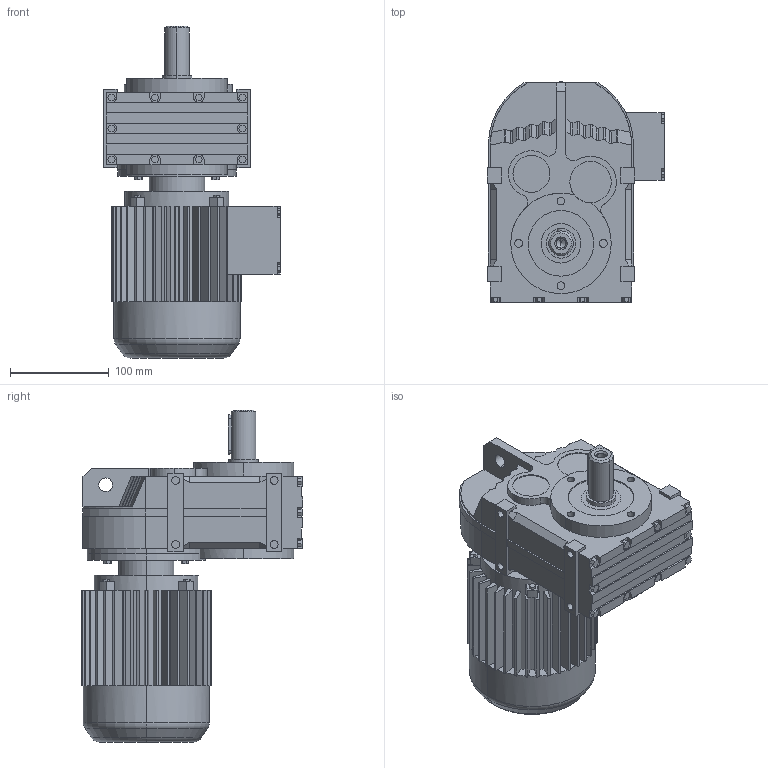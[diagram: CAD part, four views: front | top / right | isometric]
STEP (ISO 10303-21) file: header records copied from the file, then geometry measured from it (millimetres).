
FILE_DESCRIPTION(('Open CASCADE Model'),'2;1');
FILE_NAME('Open CASCADE Shape Model','2018-06-11T09:25:38',('Author'),( 'Open CASCADE'),'Open CASCADE STEP processor 6.3','Open CASCADE 6.3' ,'Unknown');
FILE_SCHEMA(('AUTOMOTIVE_DESIGN_CC2 { 1 2 10303 214 -1 1 5 4 }'));
Length unit declared in the file: millimetre
Products named in the file (4): 1_F27DR63; FAZ27‵157_27.step; 萇儂_120-DR63-191-246-132-105.step; す瑩妗陑粣F_27.step
Assembly tree (3 placements, depth 2):
  1_F27DR63
    FAZ27‵157_27.step
    萇儂_120-DR63-191-246-132-105.step
    す瑩妗陑粣F_27.step
Bounding box: 180.5 x 224.7 x 337 mm (x, y, z)
Volume: 4598237.5 mm3; surface area: 358417.3 mm2
Topology: 3 solids, 3 shells, 762 faces, 2010 edges, 1306 vertices
Faces by surface type: plane 560, cylinder 174, bspline 16, cone 8, torus 4
Entity records: 51195 total; most frequent: CARTESIAN_POINT 12483, DIRECTION 6807, ORIENTED_EDGE 4016, PCURVE 4016, DEFINITIONAL_REPRESENTATION 4016, LINE 3941, VECTOR 3941, EDGE_CURVE 2008
